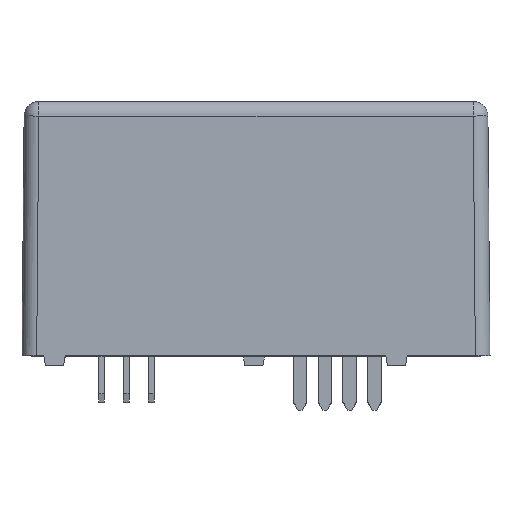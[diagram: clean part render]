
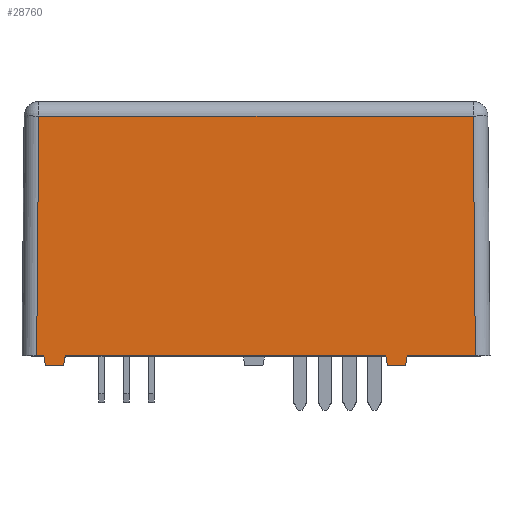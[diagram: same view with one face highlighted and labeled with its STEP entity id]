
A CAD part, top view. The second image highlights one B-rep face of the part: STEP entity #28760.
In plain terms, the highlighted planar face has unit normal (0, 0.009, 1) as drawn and (0, 0.009, -1) by its records, which use the part's own axes.
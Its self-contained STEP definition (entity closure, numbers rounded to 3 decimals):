
#200=CARTESIAN_POINT('',(-16.476,-7.382,
-6.109));
#210=VERTEX_POINT('',#200);
#240=CARTESIAN_POINT('',(-16.626,-7.381,
-6.109));
#250=DIRECTION('',(-1.,0.,0.));
#260=VECTOR('',#250,1.);
#270=LINE('',#240,#260);
#280=CARTESIAN_POINT('',(-18.324,-7.382,
-6.109));
#290=VERTEX_POINT('',#280);
#300=EDGE_CURVE('',#210,#290,#270,.T.);
#630=CARTESIAN_POINT('',(-18.324,-7.382,
-6.109));
#640=DIRECTION('',(-0.174,0.985,
0.009));
#650=VECTOR('',#640,1.);
#660=LINE('',#630,#650);
#670=CARTESIAN_POINT('',(-18.5,-6.382,
-6.1));
#680=VERTEX_POINT('',#670);
#690=EDGE_CURVE('',#290,#680,#660,.T.);
#1350=CARTESIAN_POINT('',(-25.47,-6.381,-6.1));
#1360=DIRECTION('',(1.,0.,0.));
#1370=VECTOR('',#1360,1.);
#1380=LINE('',#1350,#1370);
#1390=CARTESIAN_POINT('',(-25.47,-6.382,
-6.1));
#1400=VERTEX_POINT('',#1390);
#1410=EDGE_CURVE('',#1400,#680,#1380,.T.);
#15710=CARTESIAN_POINT('',(19.43,-6.382,-6.1));
#15720=VERTEX_POINT('',#15710);
#15750=CARTESIAN_POINT('',(-0.15,-6.381,-6.1));
#15760=DIRECTION('',(-1.,-0.,0.));
#15770=VECTOR('',#15760,1.);
#15780=LINE('',#15750,#15770);
#15790=CARTESIAN_POINT('',(18.7,-6.382,
-6.1));
#15800=VERTEX_POINT('',#15790);
#15810=EDGE_CURVE('',#15720,#15800,#15780,.T.);
#27930=CARTESIAN_POINT('',(-25.47,-6.381,
-6.1));
#27940=DIRECTION('',(0.009,1.,
0.009));
#27950=VECTOR('',#27940,1.);
#27960=LINE('',#27930,#27950);
#27970=CARTESIAN_POINT('',(-25.256,18.132,
-5.886));
#27980=VERTEX_POINT('',#27970);
#27990=EDGE_CURVE('',#1400,#27980,#27960,.T.);
#28120=CARTESIAN_POINT('',(19.13,-7.381,
-6.109));
#28130=DIRECTION('',(0.,0.009,-1.));
#28140=DIRECTION('',(0.,-1.,-0.009));
#28150=AXIS2_PLACEMENT_3D('',#28120,#28130,#28140);
#28160=PLANE('',#28150);
#28170=CARTESIAN_POINT('',(18.916,18.132,
-5.886));
#28180=DIRECTION('',(-1.,0.,0.));
#28190=VECTOR('',#28180,1.);
#28200=LINE('',#28170,#28190);
#28210=CARTESIAN_POINT('',(19.216,18.132,
-5.886));
#28220=VERTEX_POINT('',#28210);
#28230=EDGE_CURVE('',#28220,#27980,#28200,.T.);
#28240=ORIENTED_EDGE('',*,*,#28230,.F.);
#28250=ORIENTED_EDGE('',*,*,#27990,.T.);
#28260=ORIENTED_EDGE('',*,*,#1410,.F.);
#28270=ORIENTED_EDGE('',*,*,#690,.T.);
#28280=ORIENTED_EDGE('',*,*,#300,.T.);
#28290=CARTESIAN_POINT('',(-16.3,-6.382,-6.1));
#28300=DIRECTION('',(-0.174,-0.985,
-0.009));
#28310=VECTOR('',#28300,1.);
#28320=LINE('',#28290,#28310);
#28330=CARTESIAN_POINT('',(-16.3,-6.382,
-6.1));
#28340=VERTEX_POINT('',#28330);
#28350=EDGE_CURVE('',#28340,#210,#28320,.T.);
#28360=ORIENTED_EDGE('',*,*,#28350,.T.);
#28370=CARTESIAN_POINT('',(16.35,-6.381,-6.1));
#28380=DIRECTION('',(-1.,0.,0.));
#28390=VECTOR('',#28380,1.);
#28400=LINE('',#28370,#28390);
#28410=CARTESIAN_POINT('',(16.5,-6.382,
-6.1));
#28420=VERTEX_POINT('',#28410);
#28430=EDGE_CURVE('',#28420,#28340,#28400,.T.);
#28440=ORIENTED_EDGE('',*,*,#28430,.T.);
#28450=CARTESIAN_POINT('',(16.676,-7.382,
-6.109));
#28460=DIRECTION('',(-0.174,0.985,
0.009));
#28470=VECTOR('',#28460,1.);
#28480=LINE('',#28450,#28470);
#28490=CARTESIAN_POINT('',(16.676,-7.382,
-6.109));
#28500=VERTEX_POINT('',#28490);
#28510=EDGE_CURVE('',#28500,#28420,#28480,.T.);
#28520=ORIENTED_EDGE('',*,*,#28510,.T.);
#28530=CARTESIAN_POINT('',(16.526,-7.381,
-6.109));
#28540=DIRECTION('',(1.,0.,0.));
#28550=VECTOR('',#28540,1.);
#28560=LINE('',#28530,#28550);
#28570=CARTESIAN_POINT('',(18.524,-7.382,
-6.109));
#28580=VERTEX_POINT('',#28570);
#28590=EDGE_CURVE('',#28500,#28580,#28560,.T.);
#28600=ORIENTED_EDGE('',*,*,#28590,.F.);
#28610=CARTESIAN_POINT('',(18.7,-6.382,-6.1));
#28620=DIRECTION('',(-0.174,-0.985,
-0.009));
#28630=VECTOR('',#28620,1.);
#28640=LINE('',#28610,#28630);
#28650=EDGE_CURVE('',#15800,#28580,#28640,.T.);
#28660=ORIENTED_EDGE('',*,*,#28650,.T.);
#28670=ORIENTED_EDGE('',*,*,#15810,.T.);
#28680=CARTESIAN_POINT('',(19.374,0.013,
-6.044));
#28690=DIRECTION('',(0.009,-1.,
-0.009));
#28700=VECTOR('',#28690,1.);
#28710=LINE('',#28680,#28700);
#28720=EDGE_CURVE('',#28220,#15720,#28710,.T.);
#28730=ORIENTED_EDGE('',*,*,#28720,.T.);
#28740=EDGE_LOOP('',(#28730,#28670,#28660,#28600,#28520,#28440,#28360,
#28280,#28270,#28260,#28250,#28240));
#28750=FACE_OUTER_BOUND('',#28740,.T.);
#28760=ADVANCED_FACE('',(#28750),#28160,.T.);
